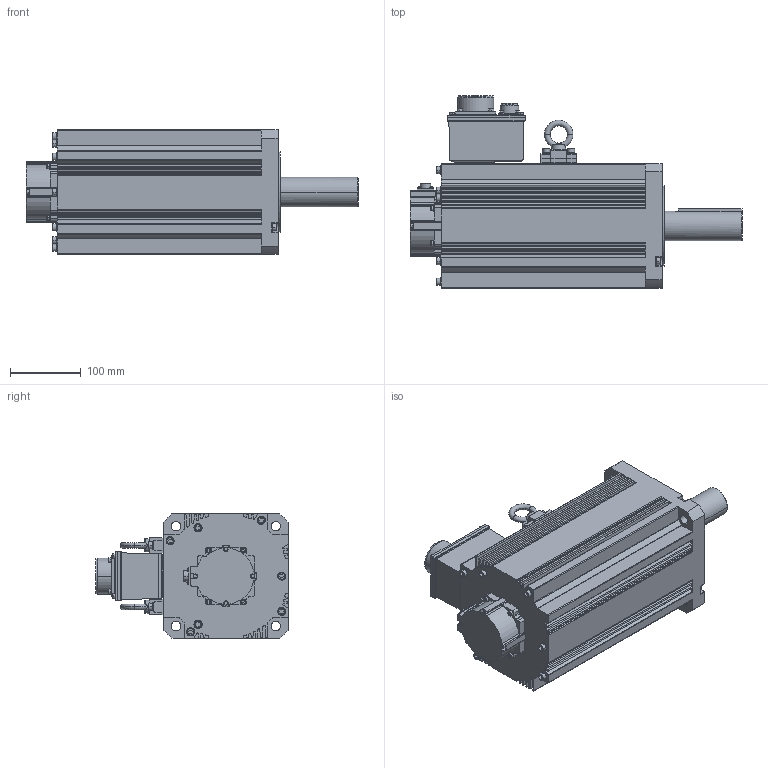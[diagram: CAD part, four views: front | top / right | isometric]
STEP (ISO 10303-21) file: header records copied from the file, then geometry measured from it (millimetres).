
FILE_DESCRIPTION( ( '' ), '1' );
FILE_NAME( '//expscmdclustefs.cadenas.external/client_exchange/iodir/jobs/output/wkb64914553_no0/STEP/MHME754G1G_2_03.stp', '2013-10-30T15:28:49', ( '' ), ( '' ), ' ', ' ', ' ' );
FILE_SCHEMA( ( 'CONFIG_CONTROL_DESIGN' ) );
Length unit declared in the file: millimetre
Products named in the file (1): 1
Bounding box: 470 x 272 x 176.36 mm (x, y, z)
Volume: 9527833.9 mm3; surface area: 452027.3 mm2
Topology: 1 solids, 1 shells, 1093 faces, 2797 edges, 1820 vertices
Faces by surface type: plane 571, cylinder 402, cone 90, torus 26, sphere 4
Entity records: 33835 total; most frequent: CARTESIAN_POINT 6449, DIRECTION 5885, ORIENTED_EDGE 5594, EDGE_CURVE 2797, AXIS2_PLACEMENT_3D 2062, VERTEX_POINT 1820, LINE 1761, VECTOR 1761
